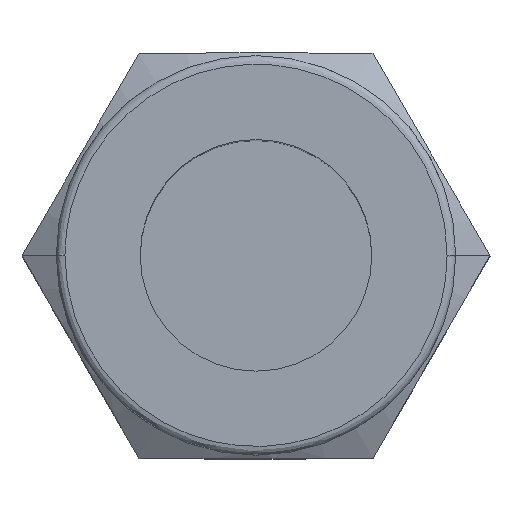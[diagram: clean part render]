
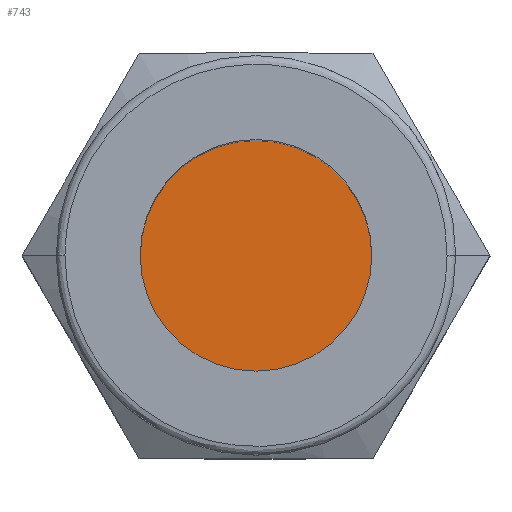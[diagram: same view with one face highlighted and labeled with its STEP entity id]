
A CAD part, top view. The second image highlights one B-rep face of the part: STEP entity #743.
In plain terms, the highlighted planar face has unit normal (0, 0, 1).
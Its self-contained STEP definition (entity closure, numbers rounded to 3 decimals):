
#264 = ORIENTED_EDGE ( 'NONE', *, *, #814, .T. ) ;
#267 = ORIENTED_EDGE ( 'NONE', *, *, #779, .T. ) ;
#475 = CARTESIAN_POINT ( 'NONE',  ( -4., 0., 9.7 ) ) ;
#565 = VERTEX_POINT ( 'NONE', #475 ) ;
#617 = VERTEX_POINT ( 'NONE', #657 ) ;
#644 = FACE_OUTER_BOUND ( 'NONE', #1276, .T. ) ;
#657 = CARTESIAN_POINT ( 'NONE',  ( 4., 0., 9.7 ) ) ;
#743 = ADVANCED_FACE ( '13', ( #644 ), #1448, .T. ) ;
#779 = EDGE_CURVE ( 'NONE', #565, #617, #1133, .T. ) ;
#814 = EDGE_CURVE ( 'NONE', #617, #565, #1044, .T. ) ;
#1044 = CIRCLE ( 'NONE', #1175, 4. ) ;
#1133 = CIRCLE ( 'NONE', #1262, 4. ) ;
#1175 = AXIS2_PLACEMENT_3D ( 'NONE', #1607, #1467, #1541 ) ;
#1262 = AXIS2_PLACEMENT_3D ( 'NONE', #1636, #1602, #1492 ) ;
#1276 = EDGE_LOOP ( 'NONE', ( #264, #267 ) ) ;
#1357 = AXIS2_PLACEMENT_3D ( 'NONE', #1440, #1432, #1430 ) ;
#1430 = DIRECTION ( 'NONE',  ( 0., -1., 0. ) ) ;
#1432 = DIRECTION ( 'NONE',  ( 0., 0., 1. ) ) ;
#1440 = CARTESIAN_POINT ( 'NONE',  ( 8.147, 2.183, 9.7 ) ) ;
#1448 = PLANE ( 'NONE',  #1357 ) ;
#1467 = DIRECTION ( 'NONE',  ( 0., 0., 1. ) ) ;
#1492 = DIRECTION ( 'NONE',  ( 1., 0., 0. ) ) ;
#1541 = DIRECTION ( 'NONE',  ( 1., 0., 0. ) ) ;
#1602 = DIRECTION ( 'NONE',  ( 0., 0., 1. ) ) ;
#1607 = CARTESIAN_POINT ( 'NONE',  ( 0., 0., 9.7 ) ) ;
#1636 = CARTESIAN_POINT ( 'NONE',  ( 0., 0., 9.7 ) ) ;
